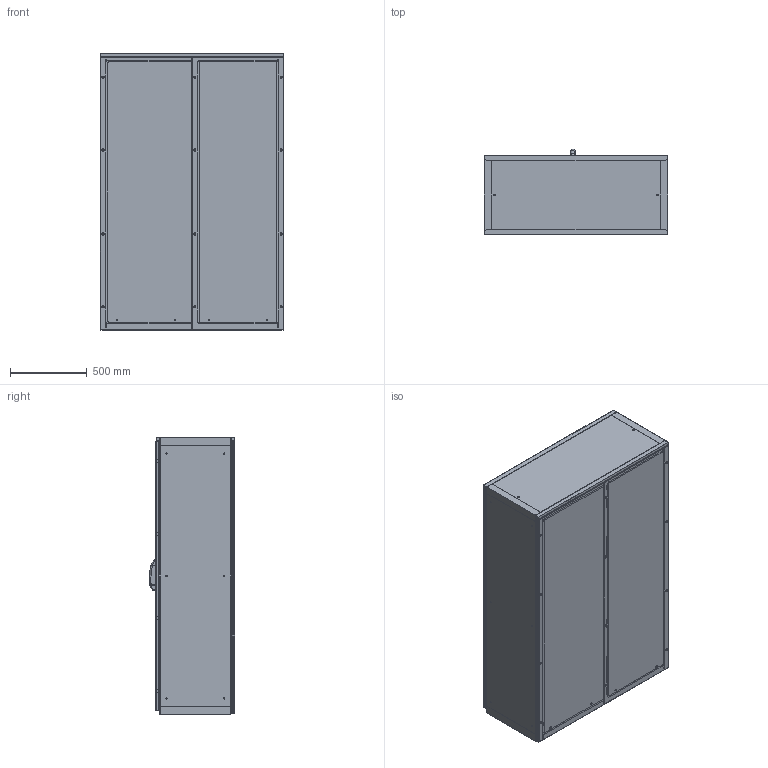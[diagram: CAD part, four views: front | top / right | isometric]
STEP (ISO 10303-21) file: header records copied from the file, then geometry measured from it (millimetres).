
FILE_DESCRIPTION (( 'STEP AP203' ), '1' );
FILE_NAME ('EMOX121805PR.STEP', '2025-06-03T09:45:14', ( '' ), ( '' ), 'SwSTEP 2.0', 'SolidWorks 2022', '' );
FILE_SCHEMA (( 'CONFIG_CONTROL_DESIGN' ));
Length unit declared in the file: millimetre
Products named in the file (11): AR_ENUX_nuova_maniglia_mesan; AR_EMOX_montaggio_porta_IB_2.0_1200x1800_ANT_DX; AR_EMOX_Porta_IB_2.0_1200x1800_ANT; EMOX121805PR; AR_EMOX_Retro_CB_1200x1800; AR_EMOX_Tegolino_1200x0050; AR_EMOX_Porta_CB_2.0_1200x1800_ANT_DX; AR_EMOX_Tegolino_1200x0100; AR_EMOX_struttura_1200x1800x0500; AR_EMOX_Retro_IB_1200x1800; AR_EMOX_Piastra_frontale_3.0_1200x1800
Assembly tree (16 placements, depth 3):
  EMOX121805PR
    AR_EMOX_struttura_1200x1800x0500
    AR_EMOX_Piastra_frontale_3.0_1200x1800
    AR_EMOX_montaggio_porta_IB_2.0_1200x1800_ANT_DX
      AR_EMOX_Porta_IB_2.0_1200x1800_ANT
      AR_ENUX_nuova_maniglia_mesan
    AR_EMOX_Porta_CB_2.0_1200x1800_ANT_DX
    AR_EMOX_Retro_CB_1200x1800
    AR_EMOX_Retro_IB_1200x1800
    AR_EMOX_Tegolino_1200x0050  x4
    AR_EMOX_Tegolino_1200x0100  x4
Bounding box: 1200 x 556.5 x 1809 mm (x, y, z)
Volume: 22262045.1 mm3; surface area: 24049842.2 mm2
Topology: 15 solids, 15 shells, 3843 faces, 10605 edges, 6763 vertices
Faces by surface type: plane 2031, cylinder 1586, cone 80, torus 73, sphere 44, bspline 29
Entity records: 118780 total; most frequent: CARTESIAN_POINT 23423, DIRECTION 19691, ORIENTED_EDGE 19338, EDGE_CURVE 9669, AXIS2_PLACEMENT_3D 6711, VERTEX_POINT 6283, VECTOR 6269, LINE 6269
